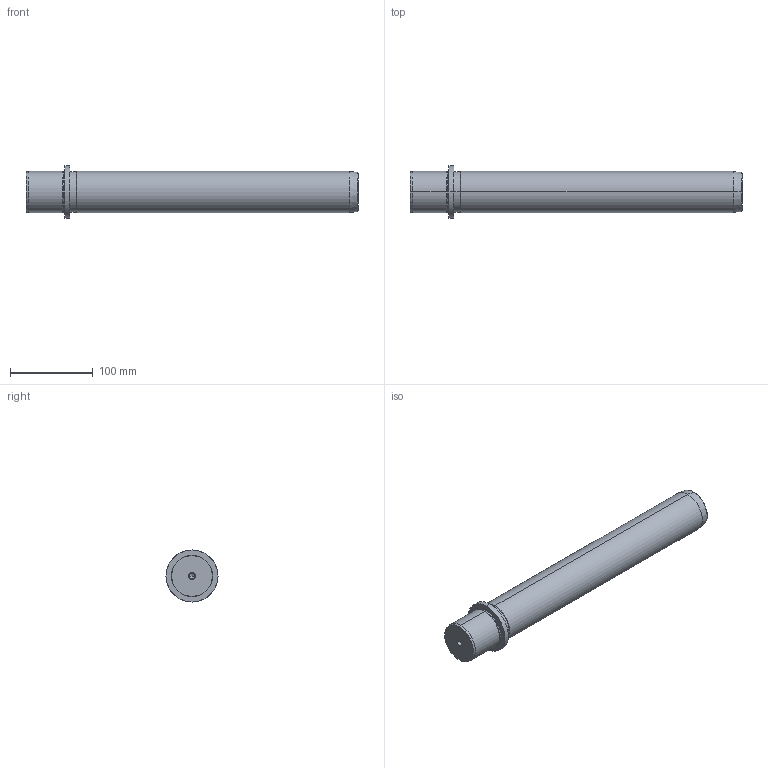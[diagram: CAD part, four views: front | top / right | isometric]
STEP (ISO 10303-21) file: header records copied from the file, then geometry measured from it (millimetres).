
FILE_DESCRIPTION(('CATIA V5 STEP Exchange'),'2;1');
FILE_NAME('C:\Users\Utente\Desktop\IO LAVORO\3D X SITO CF\X SITO\719\719-50x355.stp','2021-01-03T14:57:16+00:00',('none'),('none'),'CATIA Version 5 Release 20 GA (IN-10)','CATIA V5 STEP AP203','none');
FILE_SCHEMA(('CONFIG_CONTROL_DESIGN'));
Length unit declared in the file: millimetre
Products named in the file (1): 719-50x355
Bounding box: 402 x 63 x 63 mm (x, y, z)
Volume: 792382.3 mm3; surface area: 70429.5 mm2
Topology: 1 solids, 1 shells, 36 faces, 100 edges, 66 vertices
Faces by surface type: cone 16, cylinder 14, plane 4, torus 2
Entity records: 1267 total; most frequent: CARTESIAN_POINT 334, ORIENTED_EDGE 192, DIRECTION 159, EDGE_CURVE 96, AXIS2_PLACEMENT_3D 94, VERTEX_POINT 66, CIRCLE 57, EDGE_LOOP 40
